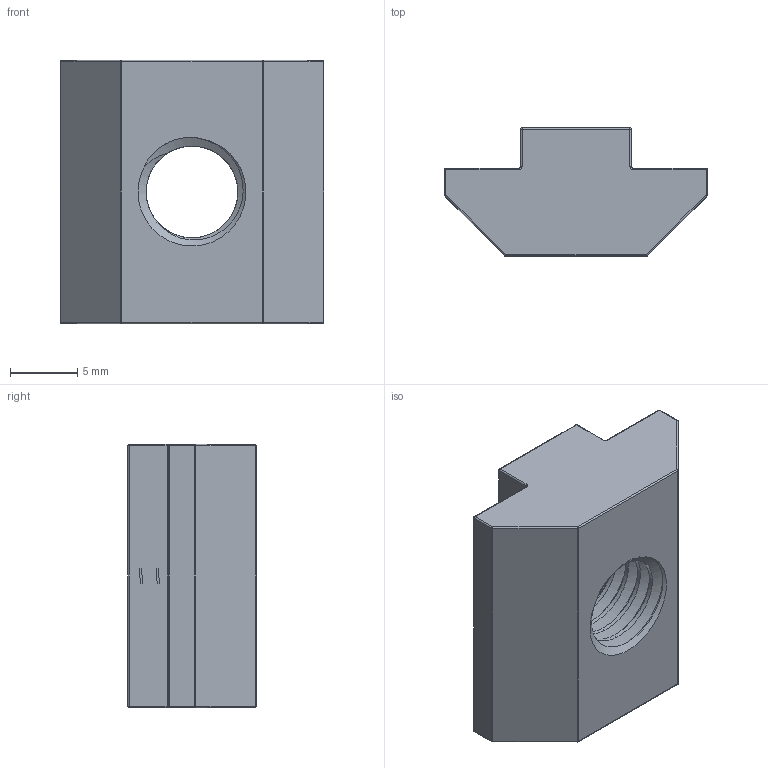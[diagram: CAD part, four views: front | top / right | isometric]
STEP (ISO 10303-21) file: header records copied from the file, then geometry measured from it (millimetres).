
FILE_DESCRIPTION (( 'STEP AP203' ), '1' );
FILE_NAME ('TANLN-AL-40-M8.STEP', '2026-08-25T08:20:51', ( '' ), ( '' ), 'SwSTEP 2.0', 'SolidWorks 2020', '' );
FILE_SCHEMA (( 'CONFIG_CONTROL_DESIGN' ));
Length unit declared in the file: millimetre
Products named in the file (1): TANLN-AL-40-M8
Bounding box: 19.5 x 9.5 x 19.5 mm (x, y, z)
Volume: 2143.5 mm3; surface area: 1542.6 mm2
Topology: 1 solids, 1 shells, 84 faces, 204 edges, 109 vertices
Faces by surface type: cylinder 45, sphere 16, plane 13, torus 4, cone 3, bspline 3
Entity records: 5304 total; most frequent: CARTESIAN_POINT 3416, ORIENTED_EDGE 384, DIRECTION 383, EDGE_CURVE 192, AXIS2_PLACEMENT_3D 153, VERTEX_POINT 109, EDGE_LOOP 85, ADVANCED_FACE 84
